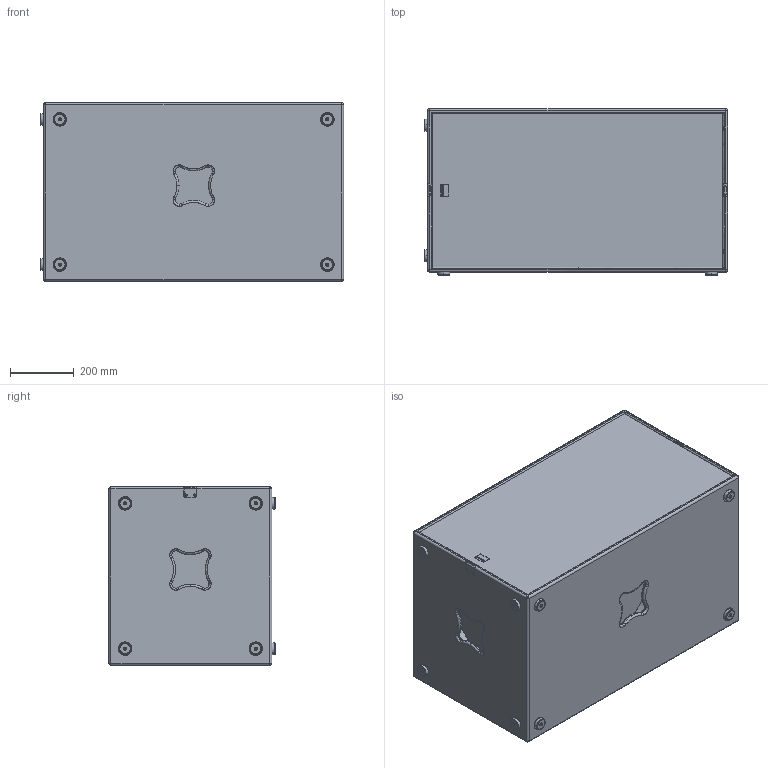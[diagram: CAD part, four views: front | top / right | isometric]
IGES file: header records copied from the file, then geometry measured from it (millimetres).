
Start section: SolidWorks IGES file using analytic representation for surfaces
Global section: file name: C:\Dokumente und Einstellungen\PC_Fabian\Desktop\K-Serie\Seeburg_B1502.IGS; native system: SolidWorks 2009; preprocessor: SolidWorks 2009; author: PC_Fabian; date: 121016.132836; units: millimetre
Bounding box: 952 x 522 x 560 mm (x, y, z)
Surface area: 5498032.7 mm2 (no closed solid volume)
Topology: 0 solids, 0 shells, 965 faces, 13688 edges, 13684 vertices
Faces by surface type: revolution 488, bspline 477
